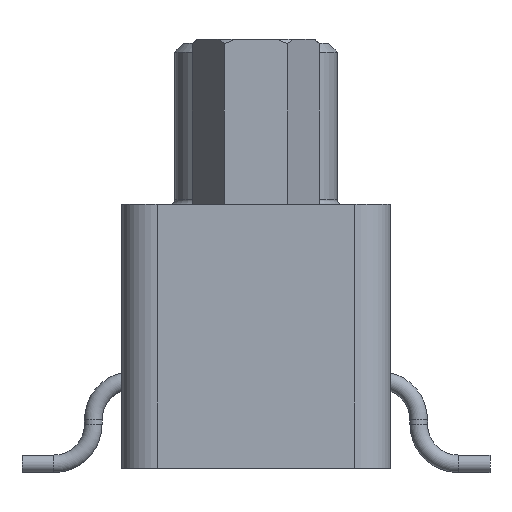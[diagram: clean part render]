
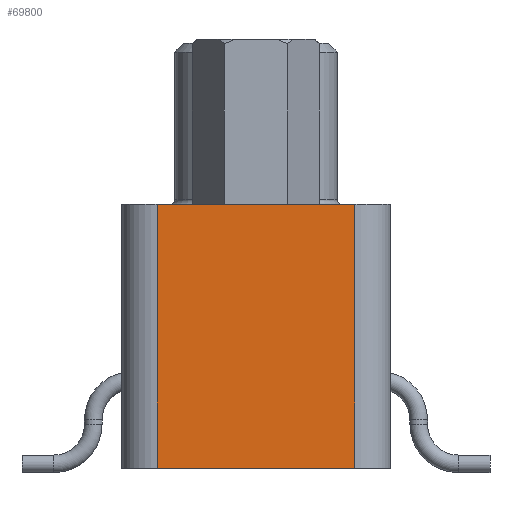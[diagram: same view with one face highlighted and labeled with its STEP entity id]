
A CAD part, left-side view. The second image highlights one B-rep face of the part: STEP entity #69800.
In plain terms, the highlighted planar face has unit normal (-1, 0, 0).
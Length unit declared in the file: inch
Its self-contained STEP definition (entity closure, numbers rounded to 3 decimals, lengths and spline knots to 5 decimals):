
#2374 = CARTESIAN_POINT ( 'NONE',  ( -0.7375, 0.1125, 0.042 ) ) ;
#3582 = CARTESIAN_POINT ( 'NONE',  ( -0.7375, 0.1125, 0.042 ) ) ;
#4848 = VECTOR ( 'NONE', #40632, 39.37008 ) ;
#7379 = EDGE_CURVE ( 'NONE', #21401, #68599, #68866, .T. ) ;
#10501 = CARTESIAN_POINT ( 'NONE',  ( -0.7375, -0.1125, 0.042 ) ) ;
#10601 = CARTESIAN_POINT ( 'NONE',  ( -0.7375, -0.1125, -0.258 ) ) ;
#10830 = ORIENTED_EDGE ( 'NONE', *, *, #70440, .T. ) ;
#10893 = AXIS2_PLACEMENT_3D ( 'NONE', #10501, #15680, #39116 ) ;
#11681 = CARTESIAN_POINT ( 'NONE',  ( -0.7375, -0.1125, 0.042 ) ) ;
#13523 = VECTOR ( 'NONE', #48633, 39.37008 ) ;
#14586 = ORIENTED_EDGE ( 'NONE', *, *, #76722, .T. ) ;
#15254 = CARTESIAN_POINT ( 'NONE',  ( -0.7375, -0.1125, -0.258 ) ) ;
#15477 = VERTEX_POINT ( 'NONE', #11681 ) ;
#15680 = DIRECTION ( 'NONE',  ( -1., 0., 0. ) ) ;
#16776 = CARTESIAN_POINT ( 'NONE',  ( -0.7375, -0.1125, 0.042 ) ) ;
#18578 = LINE ( 'NONE', #2374, #13523 ) ;
#19629 = EDGE_LOOP ( 'NONE', ( #10830, #72310, #71224, #14586 ) ) ;
#21401 = VERTEX_POINT ( 'NONE', #10601 ) ;
#28554 = FACE_OUTER_BOUND ( 'NONE', #19629, .T. ) ;
#28965 = LINE ( 'NONE', #45822, #67774 ) ;
#29163 = VERTEX_POINT ( 'NONE', #3582 ) ;
#37786 = CARTESIAN_POINT ( 'NONE',  ( -0.7375, 0.1125, -0.258 ) ) ;
#39095 = DIRECTION ( 'NONE',  ( 0., 1., 0. ) ) ;
#39116 = DIRECTION ( 'NONE',  ( 0., 0., 1. ) ) ;
#40632 = DIRECTION ( 'NONE',  ( 0., 1., 0. ) ) ;
#45429 = VECTOR ( 'NONE', #39095, 39.37008 ) ;
#45822 = CARTESIAN_POINT ( 'NONE',  ( -0.7375, -0.1125, 0.042 ) ) ;
#48633 = DIRECTION ( 'NONE',  ( 0., 0., -1. ) ) ;
#50341 = EDGE_CURVE ( 'NONE', #15477, #21401, #28965, .T. ) ;
#67774 = VECTOR ( 'NONE', #75627, 39.37008 ) ;
#68599 = VERTEX_POINT ( 'NONE', #37786 ) ;
#68866 = LINE ( 'NONE', #15254, #45429 ) ;
#69287 = PLANE ( 'NONE',  #10893 ) ;
#69800 = ADVANCED_FACE ( 'NONE', ( #28554 ), #69287, .T. ) ;
#70440 = EDGE_CURVE ( 'NONE', #29163, #68599, #18578, .T. ) ;
#70801 = LINE ( 'NONE', #16776, #4848 ) ;
#71224 = ORIENTED_EDGE ( 'NONE', *, *, #50341, .F. ) ;
#72310 = ORIENTED_EDGE ( 'NONE', *, *, #7379, .F. ) ;
#75627 = DIRECTION ( 'NONE',  ( 0., 0., -1. ) ) ;
#76722 = EDGE_CURVE ( 'NONE', #15477, #29163, #70801, .T. ) ;
